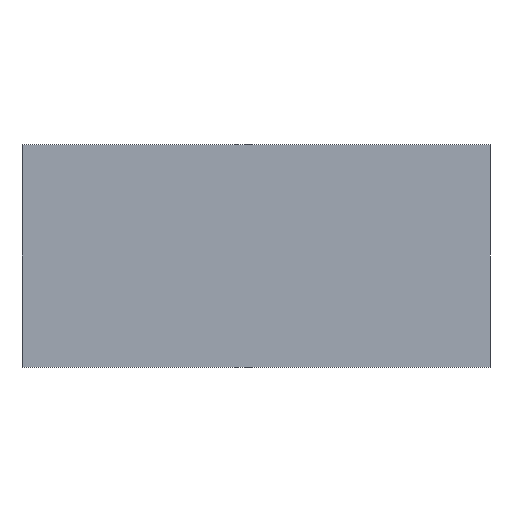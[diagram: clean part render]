
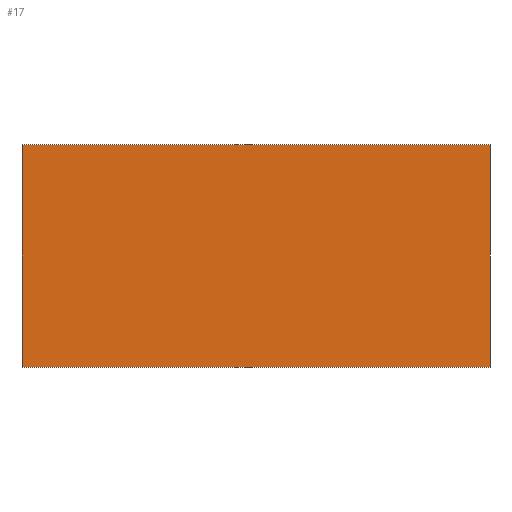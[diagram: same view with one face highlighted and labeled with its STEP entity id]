
A CAD part, left-side view. The second image highlights one B-rep face of the part: STEP entity #17.
In plain terms, the highlighted planar face has unit normal (-1, 0, 0).
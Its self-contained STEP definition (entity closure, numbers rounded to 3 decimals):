
#17 = ADVANCED_FACE('',(#18),#32,.F.);
#18 = FACE_BOUND('',#19,.F.);
#19 = EDGE_LOOP('',(#20,#55,#83,#111));
#20 = ORIENTED_EDGE('',*,*,#21,.F.);
#21 = EDGE_CURVE('',#22,#24,#26,.T.);
#22 = VERTEX_POINT('',#23);
#23 = CARTESIAN_POINT('',(0.,0.,0.));
#24 = VERTEX_POINT('',#25);
#25 = CARTESIAN_POINT('',(0.,0.,93.662));
#26 = SURFACE_CURVE('',#27,(#31,#43),.PCURVE_S1.);
#27 = LINE('',#28,#29);
#28 = CARTESIAN_POINT('',(0.,0.,0.));
#29 = VECTOR('',#30,1.);
#30 = DIRECTION('',(0.,0.,1.));
#31 = PCURVE('',#32,#37);
#32 = PLANE('',#33);
#33 = AXIS2_PLACEMENT_3D('',#34,#35,#36);
#34 = CARTESIAN_POINT('',(0.,0.,0.));
#35 = DIRECTION('',(1.,0.,0.));
#36 = DIRECTION('',(0.,0.,1.));
#37 = DEFINITIONAL_REPRESENTATION('',(#38),#42);
#38 = LINE('',#39,#40);
#39 = CARTESIAN_POINT('',(0.,0.));
#40 = VECTOR('',#41,1.);
#41 = DIRECTION('',(1.,0.));
#42 = ( GEOMETRIC_REPRESENTATION_CONTEXT(2) 
PARAMETRIC_REPRESENTATION_CONTEXT() REPRESENTATION_CONTEXT('2D SPACE',''
  ) );
#43 = PCURVE('',#44,#49);
#44 = PLANE('',#45);
#45 = AXIS2_PLACEMENT_3D('',#46,#47,#48);
#46 = CARTESIAN_POINT('',(0.,0.,0.));
#47 = DIRECTION('',(0.,1.,0.));
#48 = DIRECTION('',(0.,0.,1.));
#49 = DEFINITIONAL_REPRESENTATION('',(#50),#54);
#50 = LINE('',#51,#52);
#51 = CARTESIAN_POINT('',(0.,0.));
#52 = VECTOR('',#53,1.);
#53 = DIRECTION('',(1.,0.));
#54 = ( GEOMETRIC_REPRESENTATION_CONTEXT(2) 
PARAMETRIC_REPRESENTATION_CONTEXT() REPRESENTATION_CONTEXT('2D SPACE',''
  ) );
#55 = ORIENTED_EDGE('',*,*,#56,.T.);
#56 = EDGE_CURVE('',#22,#57,#59,.T.);
#57 = VERTEX_POINT('',#58);
#58 = CARTESIAN_POINT('',(0.,196.85,0.));
#59 = SURFACE_CURVE('',#60,(#64,#71),.PCURVE_S1.);
#60 = LINE('',#61,#62);
#61 = CARTESIAN_POINT('',(0.,0.,0.));
#62 = VECTOR('',#63,1.);
#63 = DIRECTION('',(0.,1.,0.));
#64 = PCURVE('',#32,#65);
#65 = DEFINITIONAL_REPRESENTATION('',(#66),#70);
#66 = LINE('',#67,#68);
#67 = CARTESIAN_POINT('',(0.,0.));
#68 = VECTOR('',#69,1.);
#69 = DIRECTION('',(0.,-1.));
#70 = ( GEOMETRIC_REPRESENTATION_CONTEXT(2) 
PARAMETRIC_REPRESENTATION_CONTEXT() REPRESENTATION_CONTEXT('2D SPACE',''
  ) );
#71 = PCURVE('',#72,#77);
#72 = PLANE('',#73);
#73 = AXIS2_PLACEMENT_3D('',#74,#75,#76);
#74 = CARTESIAN_POINT('',(0.,0.,0.));
#75 = DIRECTION('',(0.,0.,1.));
#76 = DIRECTION('',(1.,0.,0.));
#77 = DEFINITIONAL_REPRESENTATION('',(#78),#82);
#78 = LINE('',#79,#80);
#79 = CARTESIAN_POINT('',(0.,0.));
#80 = VECTOR('',#81,1.);
#81 = DIRECTION('',(0.,1.));
#82 = ( GEOMETRIC_REPRESENTATION_CONTEXT(2) 
PARAMETRIC_REPRESENTATION_CONTEXT() REPRESENTATION_CONTEXT('2D SPACE',''
  ) );
#83 = ORIENTED_EDGE('',*,*,#84,.T.);
#84 = EDGE_CURVE('',#57,#85,#87,.T.);
#85 = VERTEX_POINT('',#86);
#86 = CARTESIAN_POINT('',(0.,196.85,93.662));
#87 = SURFACE_CURVE('',#88,(#92,#99),.PCURVE_S1.);
#88 = LINE('',#89,#90);
#89 = CARTESIAN_POINT('',(0.,196.85,0.));
#90 = VECTOR('',#91,1.);
#91 = DIRECTION('',(0.,0.,1.));
#92 = PCURVE('',#32,#93);
#93 = DEFINITIONAL_REPRESENTATION('',(#94),#98);
#94 = LINE('',#95,#96);
#95 = CARTESIAN_POINT('',(0.,-196.85));
#96 = VECTOR('',#97,1.);
#97 = DIRECTION('',(1.,0.));
#98 = ( GEOMETRIC_REPRESENTATION_CONTEXT(2) 
PARAMETRIC_REPRESENTATION_CONTEXT() REPRESENTATION_CONTEXT('2D SPACE',''
  ) );
#99 = PCURVE('',#100,#105);
#100 = PLANE('',#101);
#101 = AXIS2_PLACEMENT_3D('',#102,#103,#104);
#102 = CARTESIAN_POINT('',(0.,196.85,0.));
#103 = DIRECTION('',(0.,1.,0.));
#104 = DIRECTION('',(0.,0.,1.));
#105 = DEFINITIONAL_REPRESENTATION('',(#106),#110);
#106 = LINE('',#107,#108);
#107 = CARTESIAN_POINT('',(0.,0.));
#108 = VECTOR('',#109,1.);
#109 = DIRECTION('',(1.,0.));
#110 = ( GEOMETRIC_REPRESENTATION_CONTEXT(2) 
PARAMETRIC_REPRESENTATION_CONTEXT() REPRESENTATION_CONTEXT('2D SPACE',''
  ) );
#111 = ORIENTED_EDGE('',*,*,#112,.F.);
#112 = EDGE_CURVE('',#24,#85,#113,.T.);
#113 = SURFACE_CURVE('',#114,(#118,#125),.PCURVE_S1.);
#114 = LINE('',#115,#116);
#115 = CARTESIAN_POINT('',(0.,0.,93.662));
#116 = VECTOR('',#117,1.);
#117 = DIRECTION('',(0.,1.,0.));
#118 = PCURVE('',#32,#119);
#119 = DEFINITIONAL_REPRESENTATION('',(#120),#124);
#120 = LINE('',#121,#122);
#121 = CARTESIAN_POINT('',(93.662,0.));
#122 = VECTOR('',#123,1.);
#123 = DIRECTION('',(0.,-1.));
#124 = ( GEOMETRIC_REPRESENTATION_CONTEXT(2) 
PARAMETRIC_REPRESENTATION_CONTEXT() REPRESENTATION_CONTEXT('2D SPACE',''
  ) );
#125 = PCURVE('',#126,#131);
#126 = PLANE('',#127);
#127 = AXIS2_PLACEMENT_3D('',#128,#129,#130);
#128 = CARTESIAN_POINT('',(0.,0.,93.662));
#129 = DIRECTION('',(0.,0.,1.));
#130 = DIRECTION('',(1.,0.,0.));
#131 = DEFINITIONAL_REPRESENTATION('',(#132),#136);
#132 = LINE('',#133,#134);
#133 = CARTESIAN_POINT('',(0.,0.));
#134 = VECTOR('',#135,1.);
#135 = DIRECTION('',(0.,1.));
#136 = ( GEOMETRIC_REPRESENTATION_CONTEXT(2) 
PARAMETRIC_REPRESENTATION_CONTEXT() REPRESENTATION_CONTEXT('2D SPACE',''
  ) );
